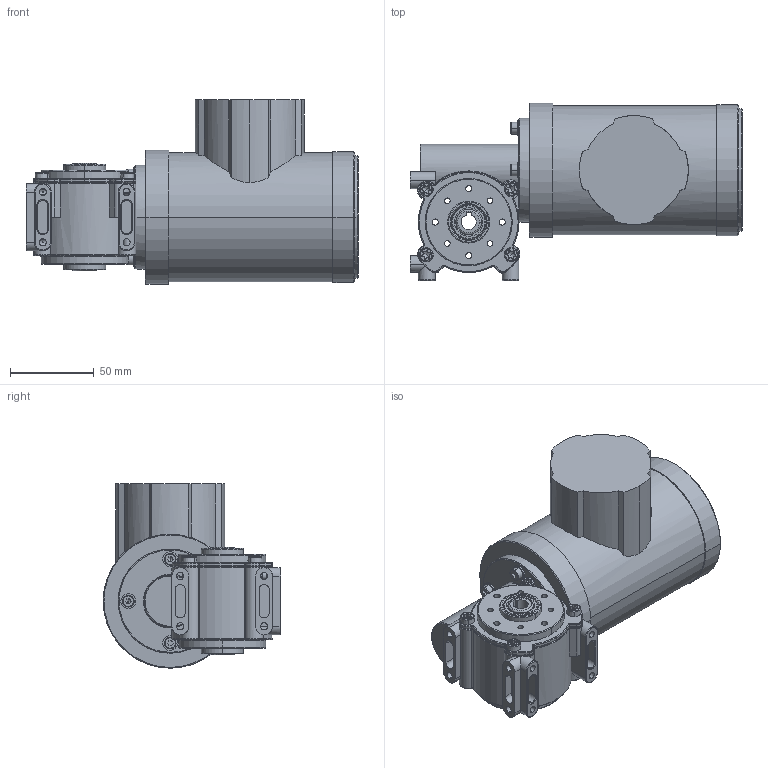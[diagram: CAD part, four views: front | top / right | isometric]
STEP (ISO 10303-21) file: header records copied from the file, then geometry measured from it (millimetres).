
FILE_DESCRIPTION (( 'STEP AP214' ), '1' );
FILE_NAME ('SN18H_90W_3000Upm_A.STEP', '2021-03-17T08:45:33', ( '' ), ( '' ), 'SwSTEP 2.0', 'SolidWorks 2019', '' );
FILE_SCHEMA (( 'AUTOMOTIVE_DESIGN' ));
Length unit declared in the file: millimetre
Products named in the file (1): SN18H_90W_3000Upm_A
Bounding box: 198 x 106 x 110 mm (x, y, z)
Surface area: 82349.7 mm2 (no closed solid volume)
Topology: 0 solids, 17 shells, 551 faces, 1526 edges, 988 vertices
Faces by surface type: cylinder 286, torus 121, plane 98, cone 36, sphere 6, bspline 4
Entity records: 26314 total; most frequent: CARTESIAN_POINT 6035, DIRECTION 3209, ORIENTED_EDGE 2777, EDGE_CURVE 1508, AXIS2_PLACEMENT_3D 1358, VERTEX_POINT 985, CIRCLE 810, EDGE_LOOP 632
